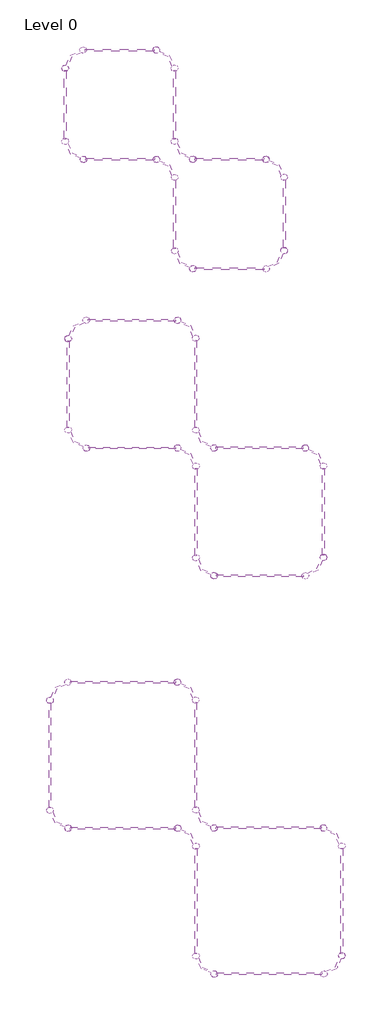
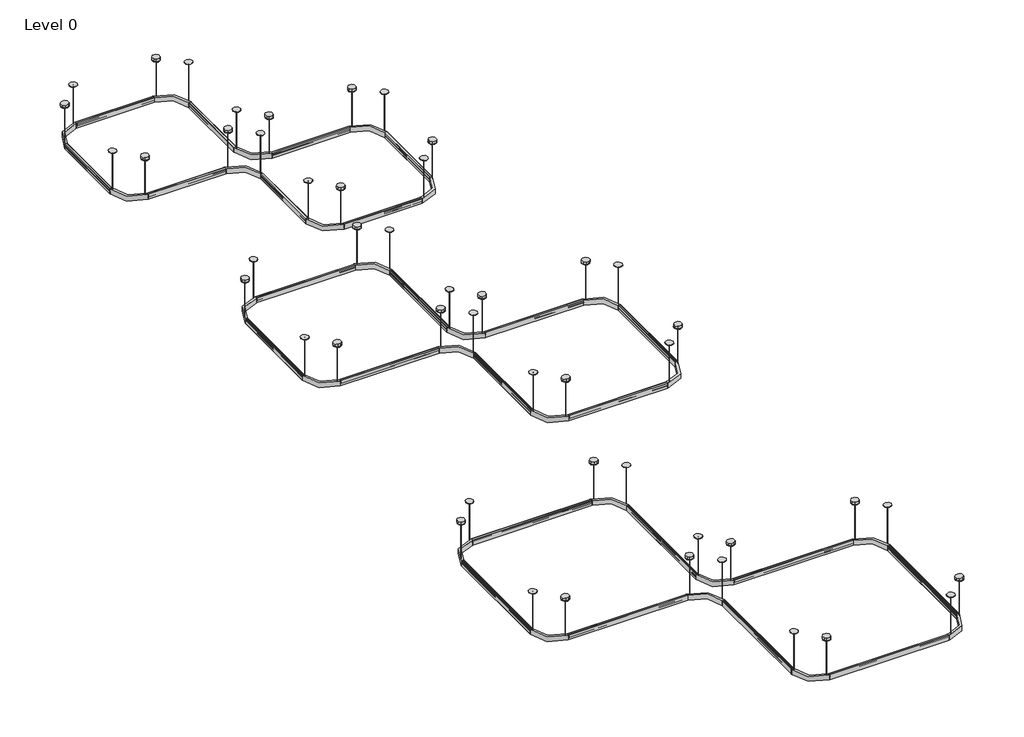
# One storey: 48 light fixtures.
"""IFC4 building model written with IfcOpenShell, lengths in millimetres."""

from ifc_helpers import new_model, si_unit, origin, place, context, project, spatial, transform, mapped, element, save
from components import light_fixture_92b9d01c, light_fixture_a85f2b84, light_fixture_7f8fd694, light_fixture_b228b45f, light_fixture_7354a39e, light_fixture_5_flush_33ba2443, l90_curved_hub_cable_mounted_blank_851db5b4

model = new_model("IFC4")

# Units and contexts
model_context = context("Model", 3, world=origin())
ifc_project = project(units=[si_unit("LENGTHUNIT", "METRE", prefix="MILLI")], contexts=[model_context])

# Site, building, storey
site = spatial("IfcSite", under=ifc_project)
building = spatial("IfcBuilding", under=site)
storey = spatial("IfcBuildingStorey", under=building, Name="Level 0", Elevation=0.0)

# Light fixtures
placement = place(None, origin())
light_fixture_shape = light_fixture_92b9d01c(model_context)
element("IfcLightFixture", 1, ObjectType="SF-LI-SL : 5-175-80-3500", at=placement, inside=storey, context=model_context, shape_type="MappedRepresentation", body=[
    mapped(light_fixture_shape, transform((-4721.0672287, 8847.3622741, 3657.6), x_axis=(0.0, -1.0, 0.0), y_axis=(1.0, 0.0, 0.0), z_axis=(0.0, 0.0, 1.0))),
])
element("IfcLightFixture", 2, ObjectType="SF-LI-SL : 5-175-80-3500", at=placement, inside=storey, context=model_context, shape_type="MappedRepresentation", body=[
    mapped(light_fixture_shape, transform((-2590.4865711, 8850.7240092, 3657.6), x_axis=(0.0, -1.0, 0.0), y_axis=(1.0, 0.0, 0.0), z_axis=(0.0, 0.0, 1.0))),
])
element("IfcLightFixture", 3, ObjectType="SF-LI-SL : 5-175-80-3500", at=placement, inside=storey, context=model_context, shape_type="MappedRepresentation", body=[
    mapped(light_fixture_shape, transform((-456.7764884, 8175.8601313, 3657.6), x_axis=(0.0, 1.0, 0.0), y_axis=(-1.0, 0.0, 0.0), z_axis=(0.0, 0.0, 1.0))),
])
element("IfcLightFixture", 4, ObjectType="SF-LI-SL : 5-175-80-3500", at=placement, inside=storey, context=model_context, shape_type="MappedRepresentation", body=[
    mapped(light_fixture_shape, transform((-2587.357146, 8172.4983962, 3657.6), x_axis=(0.0, 1.0, 0.0), y_axis=(-1.0, 0.0, 0.0), z_axis=(0.0, 0.0, 1.0))),
])
light_fixture_2_shape = light_fixture_a85f2b84(model_context)
element("IfcLightFixture", 5, ObjectType="SF-LI-SL : 6-250-80-3500", at=placement, inside=storey, context=model_context, shape_type="MappedRepresentation", body=[
    mapped(light_fixture_2_shape, transform((-5025.2279088, 2507.9982053, 3657.6), x_axis=(0.0, -1.0, 0.0), y_axis=(1.0, 0.0, 0.0), z_axis=(0.0, 0.0, 1.0))),
])
element("IfcLightFixture", 6, ObjectType="SF-LI-SL : 6-250-80-3500", at=placement, inside=storey, context=model_context, shape_type="MappedRepresentation", body=[
    mapped(light_fixture_2_shape, transform((-2590.4865711, 2511.7920396, 3657.6), x_axis=(0.0, -1.0, 0.0), y_axis=(1.0, 0.0, 0.0), z_axis=(0.0, 0.0, 1.0))),
])
element("IfcLightFixture", 7, ObjectType="SF-LI-SL : 6-250-80-3500", at=placement, inside=storey, context=model_context, shape_type="MappedRepresentation", body=[
    mapped(light_fixture_2_shape, transform((-152.0443413, 1838.0438341, 3657.6), x_axis=(0.0, 1.0, 0.0), y_axis=(-1.0, 0.0, 0.0), z_axis=(0.0, 0.0, 1.0))),
])
element("IfcLightFixture", 8, ObjectType="SF-LI-SL : 6-250-80-3500", at=placement, inside=storey, context=model_context, shape_type="MappedRepresentation", body=[
    mapped(light_fixture_2_shape, transform((-2586.7856791, 1834.2499998, 3657.6), x_axis=(0.0, 1.0, 0.0), y_axis=(-1.0, 0.0, 0.0), z_axis=(0.0, 0.0, 1.0))),
])
light_fixture_3_shape = light_fixture_7f8fd694(model_context)
element("IfcLightFixture", 9, ObjectType="SF-LD-AXT : 4' (46.25\", 1175mm)", at=placement, inside=storey, context=model_context, shape_type="MappedRepresentation", body=[
    mapped(light_fixture_3_shape, transform((-4433.7018427, 15149.2501126, 3657.6), x_axis=(-1.0, 0.0, 0.0), y_axis=(0.0, -1.0, 0.0), z_axis=(0.0, 0.0, 1.0))),
])
element("IfcLightFixture", 10, ObjectType="SF-LD-AXT : 4' (46.25\", 1175mm)", at=placement, inside=storey, context=model_context, shape_type="MappedRepresentation", body=[
    mapped(light_fixture_3_shape, transform((-2604.1334062, 13326.0110295, 3657.6), x_axis=(-1.0, 0.0, 0.0), y_axis=(0.0, -1.0, 0.0), z_axis=(0.0, 0.0, 1.0))),
])
element("IfcLightFixture", 11, ObjectType="SF-LD-AXT : 4' (46.25\", 1175mm)", at=placement, inside=storey, context=model_context, shape_type="MappedRepresentation", body=[
    mapped(light_fixture_3_shape, transform((-1450.9042051, 11500.2303719, 3657.6), x_axis=(1.0, 0.0, 0.0), y_axis=(0.0, 1.0, 0.0), z_axis=(0.0, 0.0, 1.0))),
])
element("IfcLightFixture", 12, ObjectType="SF-LD-AXT : 4' (46.25\", 1175mm)", at=placement, inside=storey, context=model_context, shape_type="MappedRepresentation", body=[
    mapped(light_fixture_3_shape, transform((-3281.2270051, 13324.1796319, 3657.6), x_axis=(1.0, 0.0, 0.0), y_axis=(0.0, 1.0, 0.0), z_axis=(0.0, 0.0, 1.0))),
])
light_fixture_4_shape = light_fixture_b228b45f(model_context)
element("IfcLightFixture", 13, ObjectType="SF-LD-AXT : 5' (57.25\", 1454mm)", at=placement, inside=storey, context=model_context, shape_type="MappedRepresentation", body=[
    mapped(light_fixture_4_shape, transform((-4384.3482387, 10641.6013876, 3657.6), x_axis=(-1.0, 0.0, 0.0), y_axis=(0.0, -1.0, 0.0), z_axis=(0.0, 0.0, 1.0))),
])
element("IfcLightFixture", 14, ObjectType="SF-LD-AXT : 5' (57.25\", 1454mm)", at=placement, inside=storey, context=model_context, shape_type="MappedRepresentation", body=[
    mapped(light_fixture_4_shape, transform((-793.4954784, 6381.6210178, 3657.6), x_axis=(1.0, 0.0, 0.0), y_axis=(0.0, 1.0, 0.0), z_axis=(0.0, 0.0, 1.0))),
])
element("IfcLightFixture", 15, ObjectType="SF-LD-AXT : 5' (57.25\", 1454mm)", at=placement, inside=storey, context=model_context, shape_type="MappedRepresentation", body=[
    mapped(light_fixture_4_shape, transform((-2250.6381561, 8513.7190834, 3657.6), x_axis=(-1.0, 0.0, 0.0), y_axis=(0.0, -1.0, 0.0), z_axis=(0.0, 0.0, 1.0))),
])
element("IfcLightFixture", 16, ObjectType="SF-LD-AXT : 5' (57.25\", 1454mm)", at=placement, inside=storey, context=model_context, shape_type="MappedRepresentation", body=[
    mapped(light_fixture_4_shape, transform((-4381.2982588, 8511.6373798, 3657.6), x_axis=(-1.0, 0.0, 0.0), y_axis=(0.0, -1.0, 0.0), z_axis=(0.0, 0.0, 1.0))),
])
light_fixture_5_shape = light_fixture_7354a39e(model_context)
element("IfcLightFixture", 17, ObjectType="SF-LD-AXT : 6' (69.25\", 1759mm)", at=placement, inside=storey, context=model_context, shape_type="MappedRepresentation", body=[
    mapped(light_fixture_5_shape, transform((-4689.1482387, 4606.2870076, 3657.6), x_axis=(-1.0, 0.0, 0.0), y_axis=(0.0, -1.0, 0.0), z_axis=(0.0, 0.0, 1.0))),
])
element("IfcLightFixture", 18, ObjectType="SF-LD-AXT : 6' (69.25\", 1759mm)", at=placement, inside=storey, context=model_context, shape_type="MappedRepresentation", body=[
    mapped(light_fixture_5_shape, transform((-488.1240115, -260.2449682, 3657.6), x_axis=(1.0, 0.0, 0.0), y_axis=(0.0, 1.0, 0.0), z_axis=(0.0, 0.0, 1.0))),
])
element("IfcLightFixture", 19, ObjectType="SF-LD-AXT : 6' (69.25\", 1759mm)", at=placement, inside=storey, context=model_context, shape_type="MappedRepresentation", body=[
    mapped(light_fixture_5_shape, transform((-2250.706009, 2174.7628241, 3657.6), x_axis=(-1.0, 0.0, 0.0), y_axis=(0.0, -1.0, 0.0), z_axis=(0.0, 0.0, 1.0))),
])
element("IfcLightFixture", 20, ObjectType="SF-LD-AXT : 6' (69.25\", 1759mm)", at=placement, inside=storey, context=model_context, shape_type="MappedRepresentation", body=[
    mapped(light_fixture_5_shape, transform((-4686.1392098, 2171.2908677, 3657.6), x_axis=(-1.0, 0.0, 0.0), y_axis=(0.0, -1.0, 0.0), z_axis=(0.0, 0.0, 1.0))),
])
light_fixture_5_flush_shape = light_fixture_5_flush_33ba2443(model_context)
element("IfcLightFixture", 21, ObjectType="SF-LD-BK : 5' FLUSH", at=placement, inside=storey, context=model_context, shape_type="MappedRepresentation", body=[
    mapped(light_fixture_5_flush_shape, transform((-1114.1852151, 12989.2920396, 3657.6), x_axis=(0.0, 1.0, 0.0), y_axis=(-1.0, 0.0, 0.0), z_axis=(0.0, 0.0, 1.0))),
])
element("IfcLightFixture", 22, ObjectType="SF-LD-BK : 5' FLUSH", at=placement, inside=storey, context=model_context, shape_type="MappedRepresentation", body=[
    mapped(light_fixture_5_flush_shape, transform((-2941.5153374, 12987.4606419, 3657.6), x_axis=(0.0, 1.0, 0.0), y_axis=(-1.0, 0.0, 0.0), z_axis=(0.0, 0.0, 1.0))),
])
element("IfcLightFixture", 23, ObjectType="SF-LD-BK : 5' FLUSH", at=placement, inside=storey, context=model_context, shape_type="MappedRepresentation", body=[
    mapped(light_fixture_5_flush_shape, transform((-2944.6401751, 14812.3717175, 3657.6), x_axis=(0.0, 1.0, 0.0), y_axis=(-1.0, 0.0, 0.0), z_axis=(0.0, 0.0, 1.0))),
])
element("IfcLightFixture", 24, ObjectType="SF-LD-BK : 5' FLUSH", at=placement, inside=storey, context=model_context, shape_type="MappedRepresentation", body=[
    mapped(light_fixture_5_flush_shape, transform((-4771.9702974, 14810.5403198, 3657.6), x_axis=(0.0, 1.0, 0.0), y_axis=(-1.0, 0.0, 0.0), z_axis=(0.0, 0.0, 1.0))),
])
l90_curved_hub_cable_mounted_blank_shape = l90_curved_hub_cable_mounted_blank_851db5b4(model_context)
element("IfcLightFixture", 25, ObjectType="L90 Curved Hub Cable Mounted : BLANK", at=placement, inside=storey, context=model_context, shape_type="MappedRepresentation", body=[
    mapped(l90_curved_hub_cable_mounted_blank_shape, transform((-4770.4208327, 14845.0371008, 3657.6), x_axis=(1.0, 0.0, 0.0), y_axis=(0.0, 1.0, 0.0), z_axis=(0.0, 0.0, 1.0))),
])
element("IfcLightFixture", 26, ObjectType="L90 Curved Hub Cable Mounted : BLANK", at=placement, inside=storey, context=model_context, shape_type="MappedRepresentation", body=[
    mapped(l90_curved_hub_cable_mounted_blank_shape, transform((-4720.7910849, 10336.4372741, 3657.6), x_axis=(1.0, 0.0, 0.0), y_axis=(0.0, 1.0, 0.0), z_axis=(0.0, 0.0, 1.0))),
])
element("IfcLightFixture", 27, ObjectType="L90 Curved Hub Cable Mounted : BLANK", at=placement, inside=storey, context=model_context, shape_type="MappedRepresentation", body=[
    mapped(l90_curved_hub_cable_mounted_blank_shape, transform((-5025.8672287, 4301.8732053, 3657.6), x_axis=(1.0, 0.0, 0.0), y_axis=(0.0, 1.0, 0.0), z_axis=(0.0, 0.0, 1.0))),
])
element("IfcLightFixture", 28, ObjectType="L90 Curved Hub Cable Mounted : BLANK", at=placement, inside=storey, context=model_context, shape_type="MappedRepresentation", body=[
    mapped(l90_curved_hub_cable_mounted_blank_shape, transform((-3249.4268427, 15149.0907074, 3657.6), x_axis=(0.0, -1.0, 0.0), y_axis=(1.0, 0.0, 0.0), z_axis=(0.0, 0.0, 1.0))),
])
element("IfcLightFixture", 29, ObjectType="L90 Curved Hub Cable Mounted : BLANK", at=placement, inside=storey, context=model_context, shape_type="MappedRepresentation", body=[
    mapped(l90_curved_hub_cable_mounted_blank_shape, transform((-2895.2732387, 10641.5929992, 3657.6), x_axis=(0.0, -1.0, 0.0), y_axis=(1.0, 0.0, 0.0), z_axis=(0.0, 0.0, 1.0))),
])
element("IfcLightFixture", 30, ObjectType="L90 Curved Hub Cable Mounted : BLANK", at=placement, inside=storey, context=model_context, shape_type="MappedRepresentation", body=[
    mapped(l90_curved_hub_cable_mounted_blank_shape, transform((-2895.2732387, 4607.4610295, 3657.6), x_axis=(0.0, -1.0, 0.0), y_axis=(1.0, 0.0, 0.0), z_axis=(0.0, 0.0, 1.0))),
])
element("IfcLightFixture", 31, ObjectType="L90 Curved Hub Cable Mounted : BLANK", at=placement, inside=storey, context=model_context, shape_type="MappedRepresentation", body=[
    mapped(l90_curved_hub_cable_mounted_blank_shape, transform((-2639.0584062, 13326.0110295, 3657.6), x_axis=(0.0, 1.0, 0.0), y_axis=(-1.0, 0.0, 0.0), z_axis=(0.0, 0.0, 1.0))),
])
element("IfcLightFixture", 32, ObjectType="L90 Curved Hub Cable Mounted : BLANK", at=placement, inside=storey, context=model_context, shape_type="MappedRepresentation", body=[
    mapped(l90_curved_hub_cable_mounted_blank_shape, transform((-1419.8584062, 13326.0110295, 3657.6), x_axis=(0.0, -1.0, 0.0), y_axis=(1.0, 0.0, 0.0), z_axis=(0.0, 0.0, 1.0))),
])
element("IfcLightFixture", 33, ObjectType="L90 Curved Hub Cable Mounted : BLANK", at=placement, inside=storey, context=model_context, shape_type="MappedRepresentation", body=[
    mapped(l90_curved_hub_cable_mounted_blank_shape, transform((-1114.1852151, 11805.0170396, 3657.6), x_axis=(-1.0, 0.0, 0.0), y_axis=(0.0, -1.0, 0.0), z_axis=(0.0, 0.0, 1.0))),
])
element("IfcLightFixture", 34, ObjectType="L90 Curved Hub Cable Mounted : BLANK", at=placement, inside=storey, context=model_context, shape_type="MappedRepresentation", body=[
    mapped(l90_curved_hub_cable_mounted_blank_shape, transform((-3246.3020051, 13324.1796319, 3657.6), x_axis=(0.0, -1.0, 0.0), y_axis=(1.0, 0.0, 0.0), z_axis=(0.0, 0.0, 1.0))),
])
element("IfcLightFixture", 35, ObjectType="L90 Curved Hub Cable Mounted : BLANK", at=placement, inside=storey, context=model_context, shape_type="MappedRepresentation", body=[
    mapped(l90_curved_hub_cable_mounted_blank_shape, transform((-4465.5020051, 13324.1796319, 3657.6), x_axis=(0.0, 1.0, 0.0), y_axis=(-1.0, 0.0, 0.0), z_axis=(0.0, 0.0, 1.0))),
])
element("IfcLightFixture", 36, ObjectType="L90 Curved Hub Cable Mounted : BLANK", at=placement, inside=storey, context=model_context, shape_type="MappedRepresentation", body=[
    mapped(l90_curved_hub_cable_mounted_blank_shape, transform((-2636.5965098, 11501.528173, 3657.6), x_axis=(0.0, 1.0, 0.0), y_axis=(-1.0, 0.0, 0.0), z_axis=(0.0, 0.0, 1.0))),
])
element("IfcLightFixture", 37, ObjectType="L90 Curved Hub Cable Mounted : BLANK", at=placement, inside=storey, context=model_context, shape_type="MappedRepresentation", body=[
    mapped(l90_curved_hub_cable_mounted_blank_shape, transform((-457.0526322, 6686.7851313, 3657.6), x_axis=(-1.0, 0.0, 0.0), y_axis=(0.0, -1.0, 0.0), z_axis=(0.0, 0.0, 1.0))),
])
element("IfcLightFixture", 38, ObjectType="L90 Curved Hub Cable Mounted : BLANK", at=placement, inside=storey, context=model_context, shape_type="MappedRepresentation", body=[
    mapped(l90_curved_hub_cable_mounted_blank_shape, transform((-2282.5704784, 6381.6294062, 3657.6), x_axis=(0.0, 1.0, 0.0), y_axis=(-1.0, 0.0, 0.0), z_axis=(0.0, 0.0, 1.0))),
])
element("IfcLightFixture", 39, ObjectType="L90 Curved Hub Cable Mounted : BLANK", at=placement, inside=storey, context=model_context, shape_type="MappedRepresentation", body=[
    mapped(l90_curved_hub_cable_mounted_blank_shape, transform((-2285.5631561, 8511.1345724, 3657.6), x_axis=(0.0, 1.0, 0.0), y_axis=(-1.0, 0.0, 0.0), z_axis=(0.0, 0.0, 1.0))),
])
element("IfcLightFixture", 40, ObjectType="L90 Curved Hub Cable Mounted : BLANK", at=placement, inside=storey, context=model_context, shape_type="MappedRepresentation", body=[
    mapped(l90_curved_hub_cable_mounted_blank_shape, transform((-761.5631561, 8511.1345724, 3657.6), x_axis=(0.0, -1.0, 0.0), y_axis=(1.0, 0.0, 0.0), z_axis=(0.0, 0.0, 1.0))),
])
element("IfcLightFixture", 41, ObjectType="L90 Curved Hub Cable Mounted : BLANK", at=placement, inside=storey, context=model_context, shape_type="MappedRepresentation", body=[
    mapped(l90_curved_hub_cable_mounted_blank_shape, transform((-4416.2232588, 8510.4974177, 3657.6), x_axis=(0.0, 1.0, 0.0), y_axis=(-1.0, 0.0, 0.0), z_axis=(0.0, 0.0, 1.0))),
])
element("IfcLightFixture", 42, ObjectType="L90 Curved Hub Cable Mounted : BLANK", at=placement, inside=storey, context=model_context, shape_type="MappedRepresentation", body=[
    mapped(l90_curved_hub_cable_mounted_blank_shape, transform((-2892.2232588, 8511.1345724, 3657.6), x_axis=(0.0, -1.0, 0.0), y_axis=(1.0, 0.0, 0.0), z_axis=(0.0, 0.0, 1.0))),
])
element("IfcLightFixture", 43, ObjectType="L90 Curved Hub Cable Mounted : BLANK", at=placement, inside=storey, context=model_context, shape_type="MappedRepresentation", body=[
    mapped(l90_curved_hub_cable_mounted_blank_shape, transform((-151.4050215, 44.1688341, 3657.6), x_axis=(-1.0, 0.0, 0.0), y_axis=(0.0, -1.0, 0.0), z_axis=(0.0, 0.0, 1.0))),
])
element("IfcLightFixture", 44, ObjectType="L90 Curved Hub Cable Mounted : BLANK", at=placement, inside=storey, context=model_context, shape_type="MappedRepresentation", body=[
    mapped(l90_curved_hub_cable_mounted_blank_shape, transform((-2281.9990115, -261.4189901, 3657.6), x_axis=(0.0, 1.0, 0.0), y_axis=(-1.0, 0.0, 0.0), z_axis=(0.0, 0.0, 1.0))),
])
element("IfcLightFixture", 45, ObjectType="L90 Curved Hub Cable Mounted : BLANK", at=placement, inside=storey, context=model_context, shape_type="MappedRepresentation", body=[
    mapped(l90_curved_hub_cable_mounted_blank_shape, transform((-2285.6073819, 2174.7628241, 3657.6), x_axis=(0.0, 1.0, 0.0), y_axis=(-1.0, 0.0, 0.0), z_axis=(0.0, 0.0, 1.0))),
])
element("IfcLightFixture", 46, ObjectType="L90 Curved Hub Cable Mounted : BLANK", at=placement, inside=storey, context=model_context, shape_type="MappedRepresentation", body=[
    mapped(l90_curved_hub_cable_mounted_blank_shape, transform((-456.831009, 2174.7628241, 3657.6), x_axis=(0.0, -1.0, 0.0), y_axis=(1.0, 0.0, 0.0), z_axis=(0.0, 0.0, 1.0))),
])
element("IfcLightFixture", 47, ObjectType="L90 Curved Hub Cable Mounted : BLANK", at=placement, inside=storey, context=model_context, shape_type="MappedRepresentation", body=[
    mapped(l90_curved_hub_cable_mounted_blank_shape, transform((-4721.0405827, 2171.2908677, 3657.6), x_axis=(0.0, 1.0, 0.0), y_axis=(-1.0, 0.0, 0.0), z_axis=(0.0, 0.0, 1.0))),
])
element("IfcLightFixture", 48, ObjectType="L90 Curved Hub Cable Mounted : BLANK", at=placement, inside=storey, context=model_context, shape_type="MappedRepresentation", body=[
    mapped(l90_curved_hub_cable_mounted_blank_shape, transform((-2892.2642098, 2171.2908677, 3657.6), x_axis=(0.0, -1.0, 0.0), y_axis=(1.0, 0.0, 0.0), z_axis=(0.0, 0.0, 1.0))),
])

save(model, "model.ifc")
